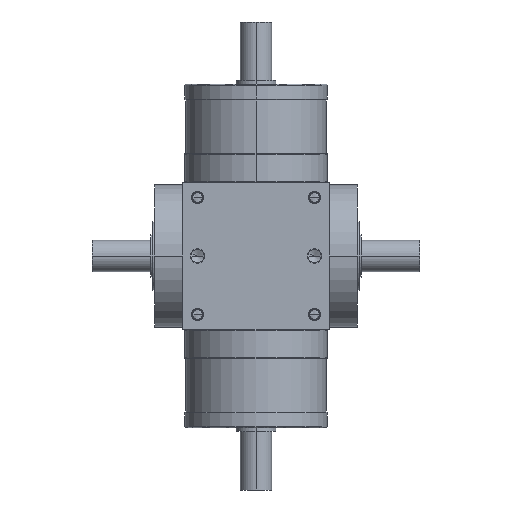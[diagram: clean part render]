
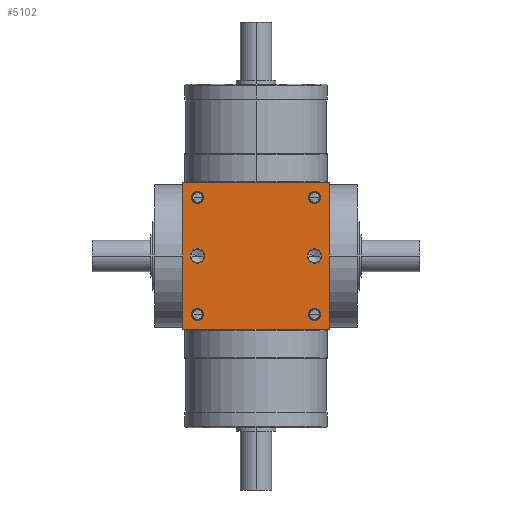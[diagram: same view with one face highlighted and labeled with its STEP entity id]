
A CAD part, front view. The second image highlights one B-rep face of the part: STEP entity #5102.
In plain terms, the highlighted planar face has unit normal (0, -1, 0).
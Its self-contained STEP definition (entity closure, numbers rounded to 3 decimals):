
#5=DIRECTION('',(1.,0.,0.));
#6=VECTOR('',#5,75.);
#7=CARTESIAN_POINT('',(-37.5,-37.5,-37.5));
#8=LINE('',#7,#6);
#165=DIRECTION('',(0.,0.,1.));
#166=VECTOR('',#165,75.);
#167=CARTESIAN_POINT('',(37.5,-37.5,-37.5));
#168=LINE('',#167,#166);
#219=DIRECTION('',(0.,0.,1.));
#220=VECTOR('',#219,75.);
#221=CARTESIAN_POINT('',(-37.5,-37.5,-37.5));
#222=LINE('',#221,#220);
#223=CARTESIAN_POINT('',(30.,-37.5,30.));
#224=DIRECTION('',(0.,1.,0.));
#225=DIRECTION('',(-1.,0.,0.));
#226=AXIS2_PLACEMENT_3D('',#223,#224,#225);
#228=CARTESIAN_POINT('',(30.,-37.5,30.));
#229=DIRECTION('',(0.,1.,0.));
#230=DIRECTION('',(1.,0.,0.));
#231=AXIS2_PLACEMENT_3D('',#228,#229,#230);
#233=CARTESIAN_POINT('',(-30.,-37.5,30.));
#234=DIRECTION('',(0.,1.,0.));
#235=DIRECTION('',(-1.,0.,0.));
#236=AXIS2_PLACEMENT_3D('',#233,#234,#235);
#238=CARTESIAN_POINT('',(-30.,-37.5,30.));
#239=DIRECTION('',(0.,1.,0.));
#240=DIRECTION('',(1.,0.,0.));
#241=AXIS2_PLACEMENT_3D('',#238,#239,#240);
#243=CARTESIAN_POINT('',(30.,-37.5,-30.));
#244=DIRECTION('',(0.,1.,0.));
#245=DIRECTION('',(-1.,0.,0.));
#246=AXIS2_PLACEMENT_3D('',#243,#244,#245);
#248=CARTESIAN_POINT('',(30.,-37.5,-30.));
#249=DIRECTION('',(0.,1.,0.));
#250=DIRECTION('',(1.,0.,0.));
#251=AXIS2_PLACEMENT_3D('',#248,#249,#250);
#253=CARTESIAN_POINT('',(-30.,-37.5,-30.));
#254=DIRECTION('',(0.,1.,0.));
#255=DIRECTION('',(-1.,0.,0.));
#256=AXIS2_PLACEMENT_3D('',#253,#254,#255);
#258=CARTESIAN_POINT('',(-30.,-37.5,-30.));
#259=DIRECTION('',(0.,1.,0.));
#260=DIRECTION('',(1.,0.,0.));
#261=AXIS2_PLACEMENT_3D('',#258,#259,#260);
#263=CARTESIAN_POINT('',(-30.,-37.5,0.));
#264=DIRECTION('',(0.,1.,0.));
#265=DIRECTION('',(1.,0.,0.));
#266=AXIS2_PLACEMENT_3D('',#263,#264,#265);
#268=CARTESIAN_POINT('',(-30.,-37.5,0.));
#269=DIRECTION('',(0.,1.,0.));
#270=DIRECTION('',(-1.,0.,0.));
#271=AXIS2_PLACEMENT_3D('',#268,#269,#270);
#273=CARTESIAN_POINT('',(30.,-37.5,0.));
#274=DIRECTION('',(0.,1.,0.));
#275=DIRECTION('',(1.,0.,0.));
#276=AXIS2_PLACEMENT_3D('',#273,#274,#275);
#278=CARTESIAN_POINT('',(30.,-37.5,0.));
#279=DIRECTION('',(0.,1.,0.));
#280=DIRECTION('',(-1.,0.,0.));
#281=AXIS2_PLACEMENT_3D('',#278,#279,#280);
#295=DIRECTION('',(1.,0.,0.));
#296=VECTOR('',#295,75.);
#297=CARTESIAN_POINT('',(-37.5,-37.5,37.5));
#298=LINE('',#297,#296);
#4076=CARTESIAN_POINT('',(-37.5,-37.5,-37.5));
#4078=VERTEX_POINT('',#4076);
#4079=CARTESIAN_POINT('',(37.5,-37.5,-37.5));
#4080=VERTEX_POINT('',#4079);
#4084=CARTESIAN_POINT('',(-37.5,-37.5,37.5));
#4086=VERTEX_POINT('',#4084);
#4087=CARTESIAN_POINT('',(37.5,-37.5,37.5));
#4088=VERTEX_POINT('',#4087);
#4267=CARTESIAN_POINT('',(26.8,-37.5,30.));
#4268=CARTESIAN_POINT('',(33.2,-37.5,30.));
#4269=VERTEX_POINT('',#4267);
#4270=VERTEX_POINT('',#4268);
#4275=CARTESIAN_POINT('',(-33.2,-37.5,30.));
#4276=CARTESIAN_POINT('',(-26.8,-37.5,30.));
#4277=VERTEX_POINT('',#4275);
#4278=VERTEX_POINT('',#4276);
#4283=CARTESIAN_POINT('',(26.8,-37.5,-30.));
#4284=CARTESIAN_POINT('',(33.2,-37.5,-30.));
#4285=VERTEX_POINT('',#4283);
#4286=VERTEX_POINT('',#4284);
#4291=CARTESIAN_POINT('',(-33.2,-37.5,-30.));
#4292=CARTESIAN_POINT('',(-26.8,-37.5,-30.));
#4293=VERTEX_POINT('',#4291);
#4294=VERTEX_POINT('',#4292);
#4651=CARTESIAN_POINT('',(-26.35,-37.5,
0.));
#4652=CARTESIAN_POINT('',(-33.65,-37.5,0.));
#4653=VERTEX_POINT('',#4651);
#4654=VERTEX_POINT('',#4652);
#4659=CARTESIAN_POINT('',(33.65,-37.5,0.));
#4660=CARTESIAN_POINT('',(26.35,-37.5,0.));
#4661=VERTEX_POINT('',#4659);
#4662=VERTEX_POINT('',#4660);
#5054=CARTESIAN_POINT('',(-37.5,-37.5,-37.5));
#5055=DIRECTION('',(0.,-1.,0.));
#5056=DIRECTION('',(1.,0.,0.));
#5057=AXIS2_PLACEMENT_3D('',#5054,#5055,#5056);
#5058=PLANE('',#5057);
#5059=ORIENTED_EDGE('',*,*,#4888,.F.);
#5060=ORIENTED_EDGE('',*,*,#4937,.T.);
#5062=ORIENTED_EDGE('',*,*,#5061,.T.);
#5063=ORIENTED_EDGE('',*,*,#5016,.F.);
#5064=EDGE_LOOP('',(#5059,#5060,#5062,#5063));
#5065=FACE_OUTER_BOUND('',#5064,.F.);
#5067=ORIENTED_EDGE('',*,*,#5066,.F.);
#5069=ORIENTED_EDGE('',*,*,#5068,.F.);
#5070=EDGE_LOOP('',(#5067,#5069));
#5071=FACE_BOUND('',#5070,.F.);
#5073=ORIENTED_EDGE('',*,*,#5072,.F.);
#5075=ORIENTED_EDGE('',*,*,#5074,.F.);
#5076=EDGE_LOOP('',(#5073,#5075));
#5077=FACE_BOUND('',#5076,.F.);
#5079=ORIENTED_EDGE('',*,*,#5078,.F.);
#5081=ORIENTED_EDGE('',*,*,#5080,.F.);
#5082=EDGE_LOOP('',(#5079,#5081));
#5083=FACE_BOUND('',#5082,.F.);
#5085=ORIENTED_EDGE('',*,*,#5084,.F.);
#5087=ORIENTED_EDGE('',*,*,#5086,.F.);
#5088=EDGE_LOOP('',(#5085,#5087));
#5089=FACE_BOUND('',#5088,.F.);
#5091=ORIENTED_EDGE('',*,*,#5090,.F.);
#5093=ORIENTED_EDGE('',*,*,#5092,.F.);
#5094=EDGE_LOOP('',(#5091,#5093));
#5095=FACE_BOUND('',#5094,.F.);
#5097=ORIENTED_EDGE('',*,*,#5096,.F.);
#5099=ORIENTED_EDGE('',*,*,#5098,.F.);
#5100=EDGE_LOOP('',(#5097,#5099));
#5101=FACE_BOUND('',#5100,.F.);
#5102=ADVANCED_FACE('',(#5065,#5071,#5077,#5083,#5089,#5095,#5101),#5058,.T.);
#227=CIRCLE('',#226,3.2);
#232=CIRCLE('',#231,3.2);
#237=CIRCLE('',#236,3.2);
#242=CIRCLE('',#241,3.2);
#247=CIRCLE('',#246,3.2);
#252=CIRCLE('',#251,3.2);
#257=CIRCLE('',#256,3.2);
#262=CIRCLE('',#261,3.2);
#267=CIRCLE('',#266,3.65);
#272=CIRCLE('',#271,3.65);
#277=CIRCLE('',#276,3.65);
#282=CIRCLE('',#281,3.65);
#4888=EDGE_CURVE('',#4078,#4080,#8,.T.);
#4937=EDGE_CURVE('',#4078,#4086,#222,.T.);
#5016=EDGE_CURVE('',#4080,#4088,#168,.T.);
#5061=EDGE_CURVE('',#4086,#4088,#298,.T.);
#5066=EDGE_CURVE('',#4269,#4270,#227,.T.);
#5068=EDGE_CURVE('',#4270,#4269,#232,.T.);
#5072=EDGE_CURVE('',#4277,#4278,#237,.T.);
#5074=EDGE_CURVE('',#4278,#4277,#242,.T.);
#5078=EDGE_CURVE('',#4285,#4286,#247,.T.);
#5080=EDGE_CURVE('',#4286,#4285,#252,.T.);
#5084=EDGE_CURVE('',#4293,#4294,#257,.T.);
#5086=EDGE_CURVE('',#4294,#4293,#262,.T.);
#5090=EDGE_CURVE('',#4653,#4654,#267,.T.);
#5092=EDGE_CURVE('',#4654,#4653,#272,.T.);
#5096=EDGE_CURVE('',#4661,#4662,#277,.T.);
#5098=EDGE_CURVE('',#4662,#4661,#282,.T.);
